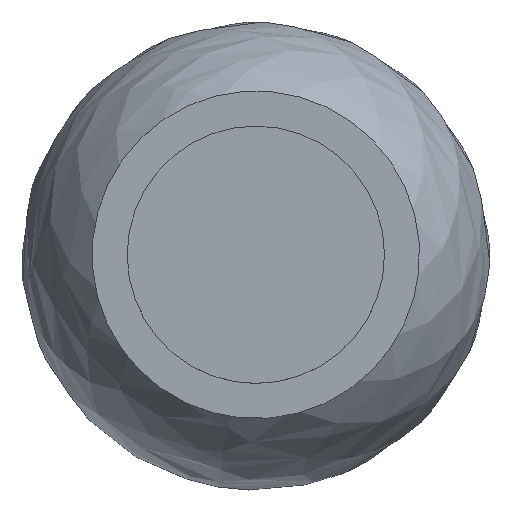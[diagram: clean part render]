
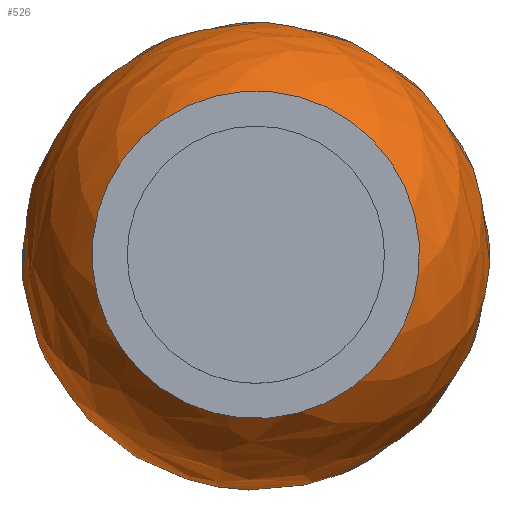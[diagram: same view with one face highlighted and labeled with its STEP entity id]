
A CAD part, top view. The second image highlights one B-rep face of the part: STEP entity #526.
In plain terms, the highlighted free-form (B-spline) face has degree [2, 2] with [5, 9] control points.
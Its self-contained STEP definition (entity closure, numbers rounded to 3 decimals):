
#13=(
BOUNDED_SURFACE()
B_SPLINE_SURFACE(2,2,((#965,#966,#967,#968,#969,#970,#971,#972,#973),(#974,
#975,#976,#977,#978,#979,#980,#981,#982),(#983,#984,#985,#986,#987,#988,
#989,#990,#991),(#992,#993,#994,#995,#996,#997,#998,#999,#1000),(#1001,
#1002,#1003,#1004,#1005,#1006,#1007,#1008,#1009)),.UNSPECIFIED.,.F.,.T.,
 .F.)
B_SPLINE_SURFACE_WITH_KNOTS((3,2,3),(3,2,2,2,3),(-1.156,0.208,
1.572),(-3.142,-1.571,0.,1.571,
3.142),.UNSPECIFIED.)
GEOMETRIC_REPRESENTATION_ITEM()
RATIONAL_B_SPLINE_SURFACE(((1.,0.707,1.,0.707,1.,
0.707,1.,0.707,1.),(0.776,0.549,
0.776,0.549,0.776,0.549,
0.776,0.549,0.776),(1.,0.707,
1.,0.707,1.,0.707,1.,0.707,1.),(0.776,
0.549,0.776,0.549,0.776,
0.549,0.776,0.549,0.776),
(1.,0.707,1.,0.707,1.,0.707,1.,0.707,
1.)))
REPRESENTATION_ITEM('')
SURFACE()
);
#139=FACE_OUTER_BOUND('',#188,.T.);
#188=EDGE_LOOP('',(#458,#459,#460));
#230=CIRCLE('',#630,40.391);
#232=CIRCLE('',#632,100.);
#274=VERTEX_POINT('',#962);
#275=VERTEX_POINT('',#1010);
#336=EDGE_CURVE('',#274,#274,#230,.T.);
#338=EDGE_CURVE('',#275,#274,#232,.T.);
#458=ORIENTED_EDGE('',*,*,#338,.T.);
#459=ORIENTED_EDGE('',*,*,#336,.T.);
#460=ORIENTED_EDGE('',*,*,#338,.F.);
#526=ADVANCED_FACE('',(#139),#13,.F.);
#630=AXIS2_PLACEMENT_3D('',#963,#808,#809);
#632=AXIS2_PLACEMENT_3D('',#1011,#812,#813);
#808=DIRECTION('center_axis',(0.,0.,
-1.));
#809=DIRECTION('ref_axis',(0.857,-0.515,0.));
#812=DIRECTION('center_axis',(-0.857,0.515,0.));
#813=DIRECTION('ref_axis',(-0.515,-0.857,0.));
#962=CARTESIAN_POINT('',(-20.803,-34.622,191.529));
#963=CARTESIAN_POINT('Origin',(0.,0.,
191.529));
#965=CARTESIAN_POINT('Ctrl Pts',(-20.803,-34.622,191.529));
#966=CARTESIAN_POINT('Ctrl Pts',(-55.425,-13.819,191.529));
#967=CARTESIAN_POINT('Ctrl Pts',(-34.622,20.803,191.529));
#968=CARTESIAN_POINT('Ctrl Pts',(-13.819,55.425,191.529));
#969=CARTESIAN_POINT('Ctrl Pts',(20.803,34.622,191.529));
#970=CARTESIAN_POINT('Ctrl Pts',(55.425,13.819,191.529));
#971=CARTESIAN_POINT('Ctrl Pts',(34.622,-20.803,191.529));
#972=CARTESIAN_POINT('Ctrl Pts',(13.819,-55.425,191.529));
#973=CARTESIAN_POINT('Ctrl Pts',(-20.803,-34.622,191.529));
#974=CARTESIAN_POINT('Ctrl Pts',(-59.083,-98.329,158.82));
#975=CARTESIAN_POINT('Ctrl Pts',(-157.412,-39.246,158.82));
#976=CARTESIAN_POINT('Ctrl Pts',(-98.329,59.083,158.82));
#977=CARTESIAN_POINT('Ctrl Pts',(-39.246,157.412,158.82));
#978=CARTESIAN_POINT('Ctrl Pts',(59.083,98.329,158.82));
#979=CARTESIAN_POINT('Ctrl Pts',(157.412,39.246,158.82));
#980=CARTESIAN_POINT('Ctrl Pts',(98.329,-59.083,158.82));
#981=CARTESIAN_POINT('Ctrl Pts',(39.246,-157.412,158.82));
#982=CARTESIAN_POINT('Ctrl Pts',(-59.083,-98.329,158.82));
#983=CARTESIAN_POINT('Ctrl Pts',(-50.453,-83.966,79.365));
#984=CARTESIAN_POINT('Ctrl Pts',(-134.42,-33.513,79.365));
#985=CARTESIAN_POINT('Ctrl Pts',(-83.966,50.453,79.365));
#986=CARTESIAN_POINT('Ctrl Pts',(-33.513,134.42,79.365));
#987=CARTESIAN_POINT('Ctrl Pts',(50.453,83.966,79.365));
#988=CARTESIAN_POINT('Ctrl Pts',(134.42,33.513,79.365));
#989=CARTESIAN_POINT('Ctrl Pts',(83.966,-50.453,79.365));
#990=CARTESIAN_POINT('Ctrl Pts',(33.513,-134.42,79.365));
#991=CARTESIAN_POINT('Ctrl Pts',(-50.453,-83.966,79.365));
#992=CARTESIAN_POINT('Ctrl Pts',(-41.823,-69.604,-0.09));
#993=CARTESIAN_POINT('Ctrl Pts',(-111.427,-27.781,-0.09));
#994=CARTESIAN_POINT('Ctrl Pts',(-69.604,41.823,-0.09));
#995=CARTESIAN_POINT('Ctrl Pts',(-27.781,111.427,-0.09));
#996=CARTESIAN_POINT('Ctrl Pts',(41.823,69.604,-0.09));
#997=CARTESIAN_POINT('Ctrl Pts',(111.427,27.781,-0.09));
#998=CARTESIAN_POINT('Ctrl Pts',(69.604,-41.823,-0.09));
#999=CARTESIAN_POINT('Ctrl Pts',(27.781,-111.427,-0.09));
#1000=CARTESIAN_POINT('Ctrl Pts',(-41.823,-69.604,-0.09));
#1001=CARTESIAN_POINT('Ctrl Pts',(0.,0.,
0.));
#1002=CARTESIAN_POINT('Ctrl Pts',(0.,0.,
0.));
#1003=CARTESIAN_POINT('Ctrl Pts',(0.,0.,
0.));
#1004=CARTESIAN_POINT('Ctrl Pts',(0.,0.,
0.));
#1005=CARTESIAN_POINT('Ctrl Pts',(0.,0.,
0.));
#1006=CARTESIAN_POINT('Ctrl Pts',(0.,0.,
0.));
#1007=CARTESIAN_POINT('Ctrl Pts',(0.,0.,
0.));
#1008=CARTESIAN_POINT('Ctrl Pts',(0.,0.,
0.));
#1009=CARTESIAN_POINT('Ctrl Pts',(0.,0.,
0.));
#1010=CARTESIAN_POINT('',(0.,0.,0.));
#1011=CARTESIAN_POINT('Origin',(-0.057,-0.095,100.));
